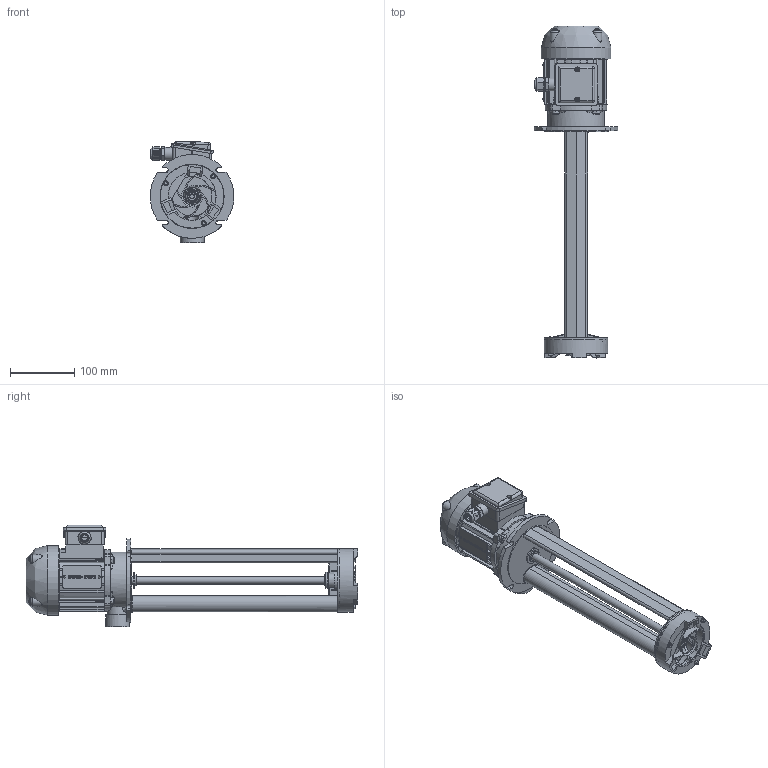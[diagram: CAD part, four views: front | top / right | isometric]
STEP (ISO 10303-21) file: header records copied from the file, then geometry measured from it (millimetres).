
FILE_DESCRIPTION(/* description */ (''),/* implementation_level */ '2;1');
FILE_NAME(/* name */ 'P:\3D PER CLIENTI\POMPE\SPV\YT56SVB++350.stp',/* time_stamp */ '2018-11-20T13:45:02+01:00',/* author */ ('cboccato'),/* organization */ (''),/* preprocessor_version */ 'ST-DEVELOPER v17.2',/* originating_system */ 'Autodesk Inventor 2019',/* authorisation */ '');
FILE_SCHEMA (('AUTOMOTIVE_DESIGN { 1 0 10303 214 3 1 1 }'));
Products named in the file (1): YT56SVB++350_iLogic_Shrinkwrap
Bounding box: 129.78 x 514.79 x 157.58 mm (x, y, z)
Volume: 780744.2 mm3; surface area: 433644.6 mm2
Topology: 14 solids, 23 shells, 2084 faces, 5757 edges, 3713 vertices
Faces by surface type: plane 1118, cylinder 516, bspline 233, cone 131, torus 60, sphere 26
Full cylindrical faces by diameter (mm): 1.1 x2, 2.53 x2, 2.56 x71, 3 x2, 3.3 x3, 3.5 x8, 3.8 x4, 4 x1, 4.5 x3, 4.58 x4, 5 x3, 6.5 x4, 7 x4, 7.5 x2, 7.6 x3, 7.9 x4, 8 x2, 8.5 x2, 8.6 x4, 10 x1, 11.3 x1, 11.5 x2, 11.95 x7, 12 x2, 12.004 x2, 13.154 x1, 13.376 x1, 13.8 x1, 14 x1, 14.4 x1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
Entity records: 87298 total; most frequent: CARTESIAN_POINT 33075, ORIENTED_EDGE 11516, DIRECTION 10065, EDGE_CURVE 5758, VERTEX_POINT 3724, AXIS2_PLACEMENT_3D 3600, LINE 2865, VECTOR 2865
